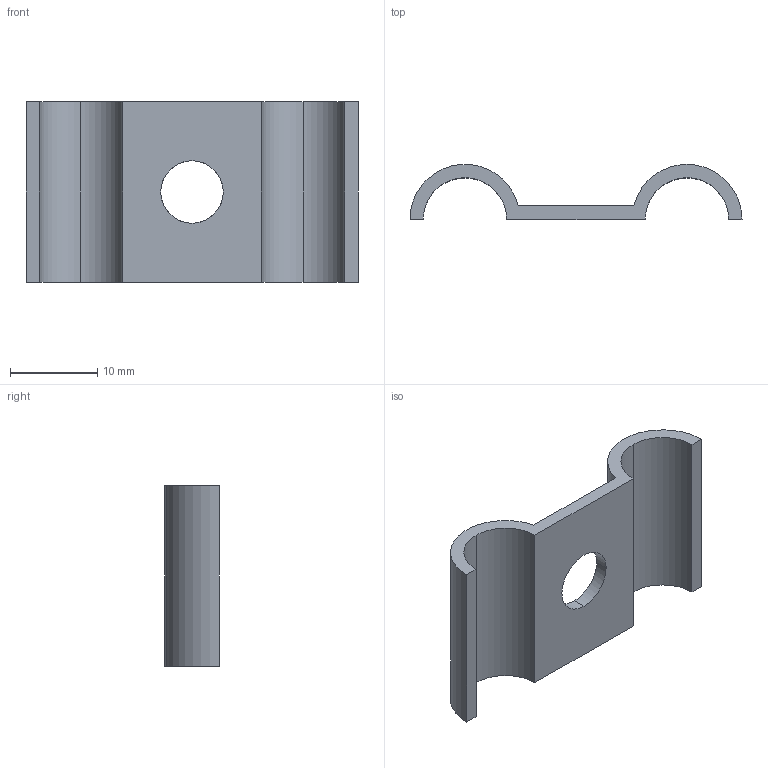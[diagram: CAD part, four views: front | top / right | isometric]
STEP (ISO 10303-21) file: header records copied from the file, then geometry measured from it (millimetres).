
FILE_DESCRIPTION(('TurboCAD Mac Pro'),'Build 980');
FILE_NAME('P6806.stp',' ',(''),(''),'ACIS Interop','IMSI','TurboCAD Mac Pro BY IMSI, INCORPORATED');
FILE_SCHEMA(('automotive_design'));
Length unit declared in the file: inch
Products named in the file (1): 1
Bounding box: 37.96 x 6.28 x 20.64 mm (x, y, z)
Volume: 1436.7 mm3; surface area: 2130.6 mm2
Topology: 1 solids, 1 shells, 18 faces, 48 edges, 32 vertices
Faces by surface type: bspline 12, plane 6
Entity records: 796 total; most frequent: CARTESIAN_POINT 255, ORIENTED_EDGE 96, EDGE_CURVE 48, DIRECTION 38, VERTEX_POINT 32, LINE 24, B_SPLINE_CURVE_WITH_KNOTS 24, VECTOR 24
